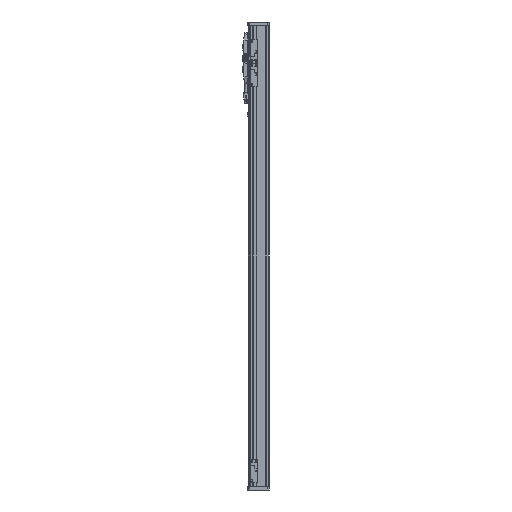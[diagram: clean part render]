
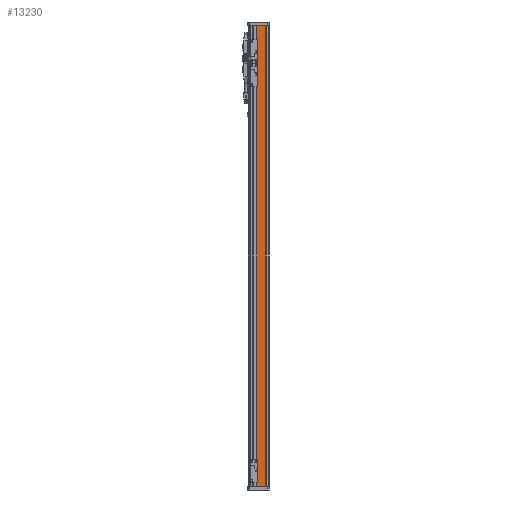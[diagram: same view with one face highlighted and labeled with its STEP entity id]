
A CAD part, left-side view. The second image highlights one B-rep face of the part: STEP entity #13230.
In plain terms, the highlighted planar face has unit normal (-1, 0, 0).
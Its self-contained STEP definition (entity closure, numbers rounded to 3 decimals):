
#152 = PLANE('',#153);
#153 = AXIS2_PLACEMENT_3D('',#154,#155,#156);
#154 = CARTESIAN_POINT('',(0.,0.,525.));
#155 = DIRECTION('',(-0.,0.,1.));
#156 = DIRECTION('',(1.,0.,0.));
#817 = PLANE('',#818);
#818 = AXIS2_PLACEMENT_3D('',#819,#820,#821);
#819 = CARTESIAN_POINT('',(0.,0.,-525.));
#820 = DIRECTION('',(-0.,0.,1.));
#821 = DIRECTION('',(1.,0.,0.));
#7007 = PLANE('',#7008);
#7008 = AXIS2_PLACEMENT_3D('',#7009,#7010,#7011);
#7009 = CARTESIAN_POINT('',(-27.5,-17.,520.));
#7010 = DIRECTION('',(-0.707,0.707,0.));
#7011 = DIRECTION('',(0.,0.,1.));
#7409 = VERTEX_POINT('',#7410);
#7410 = CARTESIAN_POINT('',(-27.1,4.6,525.));
#7424 = PLANE('',#7425);
#7425 = AXIS2_PLACEMENT_3D('',#7426,#7427,#7428);
#7426 = CARTESIAN_POINT('',(-27.1,4.6,520.));
#7427 = DIRECTION('',(-0.707,-0.707,0.));
#7428 = DIRECTION('',(0.,0.,1.));
#7436 = EDGE_CURVE('',#7409,#7437,#7439,.T.);
#7437 = VERTEX_POINT('',#7438);
#7438 = CARTESIAN_POINT('',(-27.1,-16.6,525.));
#7439 = SURFACE_CURVE('',#7440,(#7444,#7451),.PCURVE_S1.);
#7440 = LINE('',#7441,#7442);
#7441 = CARTESIAN_POINT('',(-27.1,8.,525.));
#7442 = VECTOR('',#7443,1.);
#7443 = DIRECTION('',(0.,-1.,0.));
#7444 = PCURVE('',#152,#7445);
#7445 = DEFINITIONAL_REPRESENTATION('',(#7446),#7450);
#7446 = LINE('',#7447,#7448);
#7447 = CARTESIAN_POINT('',(-27.1,8.));
#7448 = VECTOR('',#7449,1.);
#7449 = DIRECTION('',(0.,-1.));
#7450 = ( GEOMETRIC_REPRESENTATION_CONTEXT(2) 
PARAMETRIC_REPRESENTATION_CONTEXT() REPRESENTATION_CONTEXT('2D SPACE',''
  ) );
#7451 = PCURVE('',#7452,#7457);
#7452 = PLANE('',#7453);
#7453 = AXIS2_PLACEMENT_3D('',#7454,#7455,#7456);
#7454 = CARTESIAN_POINT('',(-27.1,8.,520.));
#7455 = DIRECTION('',(1.,0.,0.));
#7456 = DIRECTION('',(0.,1.,0.));
#7457 = DEFINITIONAL_REPRESENTATION('',(#7458),#7462);
#7458 = LINE('',#7459,#7460);
#7459 = CARTESIAN_POINT('',(0.,5.));
#7460 = VECTOR('',#7461,1.);
#7461 = DIRECTION('',(-1.,0.));
#7462 = ( GEOMETRIC_REPRESENTATION_CONTEXT(2) 
PARAMETRIC_REPRESENTATION_CONTEXT() REPRESENTATION_CONTEXT('2D SPACE',''
  ) );
#8476 = VERTEX_POINT('',#8477);
#8477 = CARTESIAN_POINT('',(-27.1,-16.6,-525.));
#8498 = EDGE_CURVE('',#8476,#8499,#8501,.T.);
#8499 = VERTEX_POINT('',#8500);
#8500 = CARTESIAN_POINT('',(-27.1,4.6,-525.));
#8501 = SURFACE_CURVE('',#8502,(#8506,#8513),.PCURVE_S1.);
#8502 = LINE('',#8503,#8504);
#8503 = CARTESIAN_POINT('',(-27.1,0.,-525.));
#8504 = VECTOR('',#8505,1.);
#8505 = DIRECTION('',(0.,1.,0.));
#8506 = PCURVE('',#817,#8507);
#8507 = DEFINITIONAL_REPRESENTATION('',(#8508),#8512);
#8508 = LINE('',#8509,#8510);
#8509 = CARTESIAN_POINT('',(-27.1,0.));
#8510 = VECTOR('',#8511,1.);
#8511 = DIRECTION('',(0.,1.));
#8512 = ( GEOMETRIC_REPRESENTATION_CONTEXT(2) 
PARAMETRIC_REPRESENTATION_CONTEXT() REPRESENTATION_CONTEXT('2D SPACE',''
  ) );
#8513 = PCURVE('',#7452,#8514);
#8514 = DEFINITIONAL_REPRESENTATION('',(#8515),#8519);
#8515 = LINE('',#8516,#8517);
#8516 = CARTESIAN_POINT('',(-8.,-1045.));
#8517 = VECTOR('',#8518,1.);
#8518 = DIRECTION('',(1.,0.));
#8519 = ( GEOMETRIC_REPRESENTATION_CONTEXT(2) 
PARAMETRIC_REPRESENTATION_CONTEXT() REPRESENTATION_CONTEXT('2D SPACE',''
  ) );
#13230 = ADVANCED_FACE('',(#13231),#7452,.F.);
#13231 = FACE_BOUND('',#13232,.T.);
#13232 = EDGE_LOOP('',(#13233,#13234,#13255,#13256));
#13233 = ORIENTED_EDGE('',*,*,#7436,.F.);
#13234 = ORIENTED_EDGE('',*,*,#13235,.T.);
#13235 = EDGE_CURVE('',#7409,#8499,#13236,.T.);
#13236 = SURFACE_CURVE('',#13237,(#13241,#13248),.PCURVE_S1.);
#13237 = LINE('',#13238,#13239);
#13238 = CARTESIAN_POINT('',(-27.1,4.6,-520.));
#13239 = VECTOR('',#13240,1.);
#13240 = DIRECTION('',(0.,0.,-1.));
#13241 = PCURVE('',#7452,#13242);
#13242 = DEFINITIONAL_REPRESENTATION('',(#13243),#13247);
#13243 = LINE('',#13244,#13245);
#13244 = CARTESIAN_POINT('',(-3.4,-1040.));
#13245 = VECTOR('',#13246,1.);
#13246 = DIRECTION('',(0.,-1.));
#13247 = ( GEOMETRIC_REPRESENTATION_CONTEXT(2) 
PARAMETRIC_REPRESENTATION_CONTEXT() REPRESENTATION_CONTEXT('2D SPACE',''
  ) );
#13248 = PCURVE('',#7424,#13249);
#13249 = DEFINITIONAL_REPRESENTATION('',(#13250),#13254);
#13250 = LINE('',#13251,#13252);
#13251 = CARTESIAN_POINT('',(-1040.,0.));
#13252 = VECTOR('',#13253,1.);
#13253 = DIRECTION('',(-1.,0.));
#13254 = ( GEOMETRIC_REPRESENTATION_CONTEXT(2) 
PARAMETRIC_REPRESENTATION_CONTEXT() REPRESENTATION_CONTEXT('2D SPACE',''
  ) );
#13255 = ORIENTED_EDGE('',*,*,#8498,.F.);
#13256 = ORIENTED_EDGE('',*,*,#13257,.T.);
#13257 = EDGE_CURVE('',#8476,#7437,#13258,.T.);
#13258 = SURFACE_CURVE('',#13259,(#13263,#13270),.PCURVE_S1.);
#13259 = LINE('',#13260,#13261);
#13260 = CARTESIAN_POINT('',(-27.1,-16.6,520.));
#13261 = VECTOR('',#13262,1.);
#13262 = DIRECTION('',(0.,0.,1.));
#13263 = PCURVE('',#7452,#13264);
#13264 = DEFINITIONAL_REPRESENTATION('',(#13265),#13269);
#13265 = LINE('',#13266,#13267);
#13266 = CARTESIAN_POINT('',(-24.6,0.));
#13267 = VECTOR('',#13268,1.);
#13268 = DIRECTION('',(0.,1.));
#13269 = ( GEOMETRIC_REPRESENTATION_CONTEXT(2) 
PARAMETRIC_REPRESENTATION_CONTEXT() REPRESENTATION_CONTEXT('2D SPACE',''
  ) );
#13270 = PCURVE('',#7007,#13271);
#13271 = DEFINITIONAL_REPRESENTATION('',(#13272),#13276);
#13272 = LINE('',#13273,#13274);
#13273 = CARTESIAN_POINT('',(0.,0.566));
#13274 = VECTOR('',#13275,1.);
#13275 = DIRECTION('',(1.,0.));
#13276 = ( GEOMETRIC_REPRESENTATION_CONTEXT(2) 
PARAMETRIC_REPRESENTATION_CONTEXT() REPRESENTATION_CONTEXT('2D SPACE',''
  ) );
